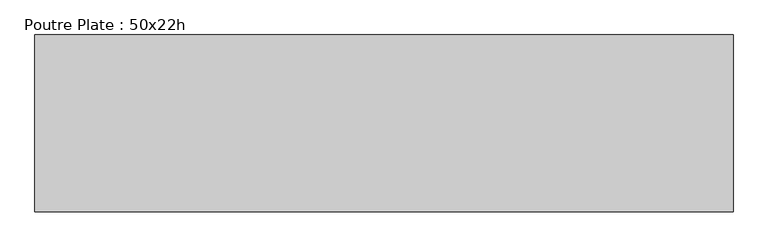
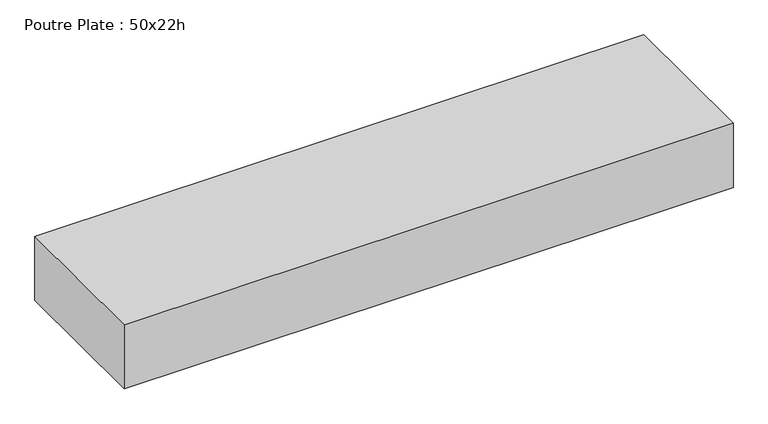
"""IFC4 building model written with IfcOpenShell, lengths in millimetres: beam geometry, Poutre Plate : 50x22h."""

from ifc_helpers import new_model, si_unit, frame, origin, place, context, project, spatial, polyline, outline, extrude, source, transform, mapped, element, save


def poutre_plate_50x22h_13fb874a(model_context):
    return source(origin(), model_context, "Body", "SweptSolid", [
        extrude(outline(polyline([(992.7, 250.0), (992.7, -250.0), (-979.7, -250.0), (-979.7, 250.0), (992.7, 250.0)])), frame((0.0, 0.0, -110.0), z_axis=(0.0, 0.0, 1.0), x_axis=(1.0, 0.0, 0.0)), (0.0, 0.0, 1.0), 220.0),
    ])


if __name__ == "__main__":
    model = new_model("IFC4")
    model_context = context("Model", 3, world=origin())
    ifc_project = project(units=[si_unit("LENGTHUNIT", "METRE", prefix="MILLI")], contexts=[model_context])
    site = spatial("IfcSite", under=ifc_project)
    building = spatial("IfcBuilding", under=site)
    placement = place(None, origin())
    poutre_plate_50x22h_shape = poutre_plate_50x22h_13fb874a(model_context)
    element("IfcBeam", 1, ObjectType="Poutre Plate : 50x22h", at=placement, inside=building, context=model_context, shape_type="MappedRepresentation", body=[
        mapped(poutre_plate_50x22h_shape, transform((0.0, 0.0, 0.0), x_axis=(1.0, 0.0, 0.0), y_axis=(0.0, 1.0, 0.0), z_axis=(0.0, 0.0, 1.0))),
    ])
    save(model, "model.ifc")
